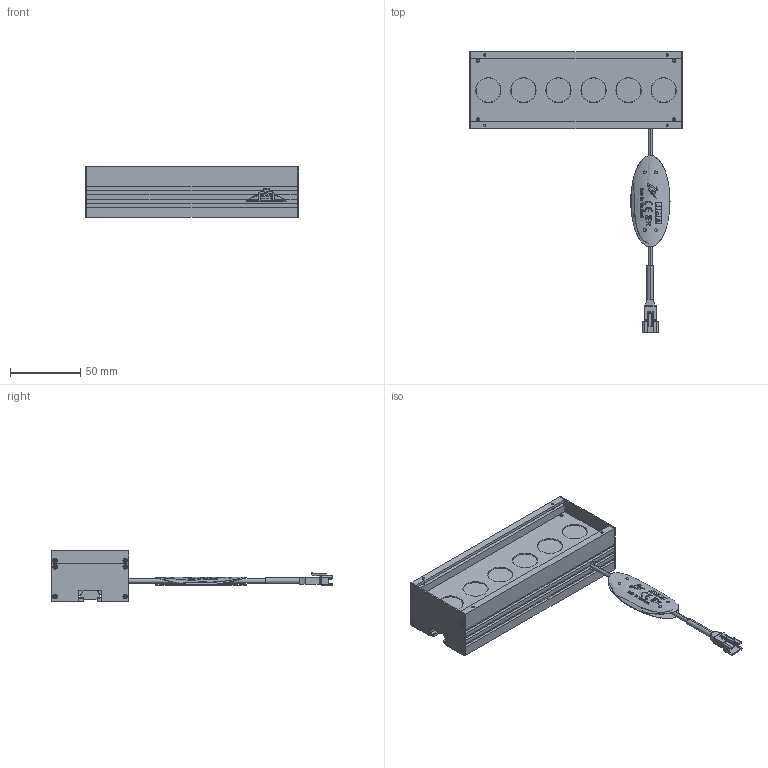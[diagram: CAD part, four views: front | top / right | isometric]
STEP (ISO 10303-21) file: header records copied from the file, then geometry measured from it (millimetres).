
FILE_DESCRIPTION(('STEP AP214'),'1');
FILE_NAME('VBAL-15030_DRAWING_3D.step','2023-10-03T08:13:14',(' '),(' '),'Spatial InterOp 3D',' ',' ');
FILE_SCHEMA(('AUTOMOTIVE_DESIGN { 1 0 10303 214 1 1 1 1 }'));
Length unit declared in the file: millimetre
Products named in the file (12): 3P; CABEL TAG (VS)_1; OSOLRB2030M; HLB308DWDWA03A_SIDE PANEL1; HLB308DWDWA04A_SIDE PANEL2; HLB548DWM01_BASE; HLB548DWM06_F-PANEL; INSULOK_2; SFB-4A6; MXB0115; MXB4508
Assembly tree (33 placements, depth 2):
  (unnamed)
    3P
    CABEL TAG (VS)_1
    OSOLRB2030M  x6
    HLB308DWDWA03A_SIDE PANEL1  x2
    HLB308DWDWA04A_SIDE PANEL2  x2
    HLB548DWM01_BASE
    HLB548DWM06_F-PANEL
    INSULOK_2
    SFB-4A6  x2
    MXB0115  x4
    MXB4508  x12
Bounding box: 152 x 200.2 x 36 mm (x, y, z)
Volume: 118779.7 mm3; surface area: 89995.5 mm2
Topology: 34 solids, 60 shells, 1075 faces, 2923 edges, 1986 vertices
Faces by surface type: plane 573, cylinder 356, cone 102, bspline 24, torus 20
Entity records: 29300 total; most frequent: CARTESIAN_POINT 6372, ORIENTED_EDGE 3850, DIRECTION 3345, EDGE_CURVE 1925, VERTEX_POINT 1376, LINE 1137, VECTOR 1137, AXIS2_PLACEMENT_3D 1104
